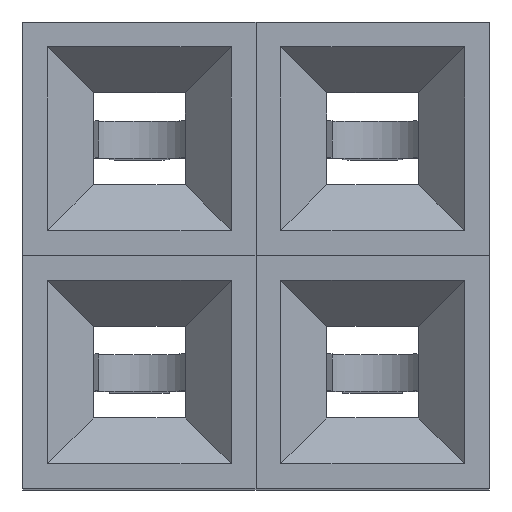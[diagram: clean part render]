
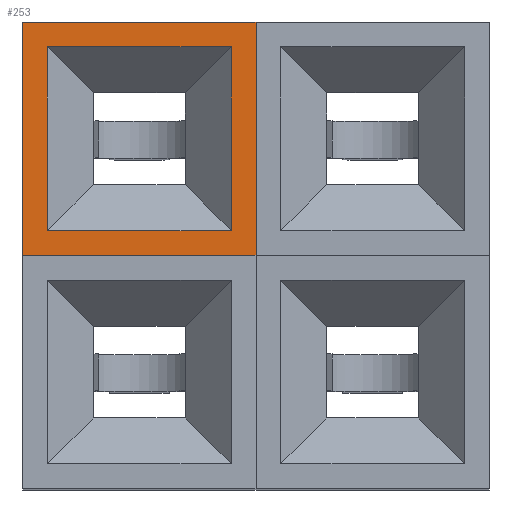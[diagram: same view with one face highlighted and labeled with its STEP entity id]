
A CAD part, top view. The second image highlights one B-rep face of the part: STEP entity #253.
In plain terms, the highlighted planar face has unit normal (0, 0, 1).
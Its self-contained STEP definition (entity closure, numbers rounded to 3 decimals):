
#89 = VERTEX_POINT('',#90);
#90 = CARTESIAN_POINT('',(-1.,1.,8.5));
#96 = EDGE_CURVE('',#89,#97,#99,.T.);
#97 = VERTEX_POINT('',#98);
#98 = CARTESIAN_POINT('',(-1.,-1.,8.5));
#99 = LINE('',#100,#101);
#100 = CARTESIAN_POINT('',(-1.,0.,8.5));
#101 = VECTOR('',#102,1.);
#102 = DIRECTION('',(0.,-1.,0.));
#127 = EDGE_CURVE('',#97,#128,#130,.T.);
#128 = VERTEX_POINT('',#129);
#129 = CARTESIAN_POINT('',(1.,-1.,8.5));
#130 = LINE('',#131,#132);
#131 = CARTESIAN_POINT('',(0.,-1.,8.5));
#132 = VECTOR('',#133,1.);
#133 = DIRECTION('',(1.,0.,0.));
#158 = EDGE_CURVE('',#128,#159,#161,.T.);
#159 = VERTEX_POINT('',#160);
#160 = CARTESIAN_POINT('',(1.,1.,8.5));
#161 = LINE('',#162,#163);
#162 = CARTESIAN_POINT('',(1.,0.,8.5));
#163 = VECTOR('',#164,1.);
#164 = DIRECTION('',(0.,1.,0.));
#187 = EDGE_CURVE('',#159,#89,#188,.T.);
#188 = LINE('',#189,#190);
#189 = CARTESIAN_POINT('',(0.,1.,8.5));
#190 = VECTOR('',#191,1.);
#191 = DIRECTION('',(-1.,0.,0.));
#253 = ADVANCED_FACE('',(#254,#288),#294,.T.);
#254 = FACE_BOUND('',#255,.T.);
#255 = EDGE_LOOP('',(#256,#266,#274,#282));
#256 = ORIENTED_EDGE('',*,*,#257,.T.);
#257 = EDGE_CURVE('',#258,#260,#262,.T.);
#258 = VERTEX_POINT('',#259);
#259 = CARTESIAN_POINT('',(-1.27,1.27,8.5));
#260 = VERTEX_POINT('',#261);
#261 = CARTESIAN_POINT('',(-1.27,-1.27,8.5));
#262 = LINE('',#263,#264);
#263 = CARTESIAN_POINT('',(-1.27,1.27,8.5));
#264 = VECTOR('',#265,1.);
#265 = DIRECTION('',(0.,-1.,0.));
#266 = ORIENTED_EDGE('',*,*,#267,.T.);
#267 = EDGE_CURVE('',#260,#268,#270,.T.);
#268 = VERTEX_POINT('',#269);
#269 = CARTESIAN_POINT('',(1.27,-1.27,8.5));
#270 = LINE('',#271,#272);
#271 = CARTESIAN_POINT('',(-1.27,-1.27,8.5));
#272 = VECTOR('',#273,1.);
#273 = DIRECTION('',(1.,0.,0.));
#274 = ORIENTED_EDGE('',*,*,#275,.T.);
#275 = EDGE_CURVE('',#268,#276,#278,.T.);
#276 = VERTEX_POINT('',#277);
#277 = CARTESIAN_POINT('',(1.27,1.27,8.5));
#278 = LINE('',#279,#280);
#279 = CARTESIAN_POINT('',(1.27,-1.27,8.5));
#280 = VECTOR('',#281,1.);
#281 = DIRECTION('',(0.,1.,0.));
#282 = ORIENTED_EDGE('',*,*,#283,.T.);
#283 = EDGE_CURVE('',#276,#258,#284,.T.);
#284 = LINE('',#285,#286);
#285 = CARTESIAN_POINT('',(1.27,1.27,8.5));
#286 = VECTOR('',#287,1.);
#287 = DIRECTION('',(-1.,0.,0.));
#288 = FACE_BOUND('',#289,.T.);
#289 = EDGE_LOOP('',(#290,#291,#292,#293));
#290 = ORIENTED_EDGE('',*,*,#96,.F.);
#291 = ORIENTED_EDGE('',*,*,#187,.F.);
#292 = ORIENTED_EDGE('',*,*,#158,.F.);
#293 = ORIENTED_EDGE('',*,*,#127,.F.);
#294 = PLANE('',#295);
#295 = AXIS2_PLACEMENT_3D('',#296,#297,#298);
#296 = CARTESIAN_POINT('',(0.,0.,8.5));
#297 = DIRECTION('',(0.,0.,1.));
#298 = DIRECTION('',(1.,0.,0.));
